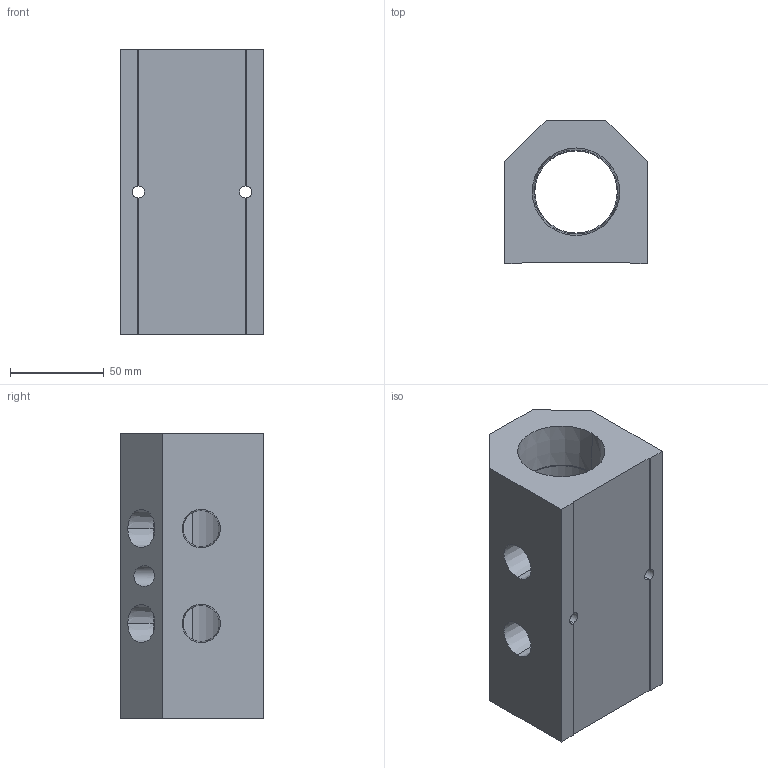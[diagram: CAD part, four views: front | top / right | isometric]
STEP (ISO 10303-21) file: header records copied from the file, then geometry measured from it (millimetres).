
FILE_DESCRIPTION (( 'STEP AP214' ), '1' );
FILE_NAME ('ALM2AB-N8N24-152R.step', '2022-02-07T09:23:09', ( '' ), ( '' ), 'SwSTEP 2.0', 'SolidWorks 2020', '' );
FILE_SCHEMA (( 'AUTOMOTIVE_DESIGN' ));
Length unit declared in the file: millimetre
Products named in the file (1): ALM2AB-N8N24-152R
Bounding box: 76.2 x 76.2 x 152 mm (x, y, z)
Volume: 539045.5 mm3; surface area: 75639.7 mm2
Topology: 1 solids, 1 shells, 296 faces, 785 edges, 522 vertices
Faces by surface type: plane 212, bspline 62, cone 12, cylinder 10
Entity records: 16194 total; most frequent: CARTESIAN_POINT 6360, ORIENTED_EDGE 1570, DIRECTION 1143, EDGE_CURVE 785, VECTOR 609, LINE 609, VERTEX_POINT 522, EDGE_LOOP 341
